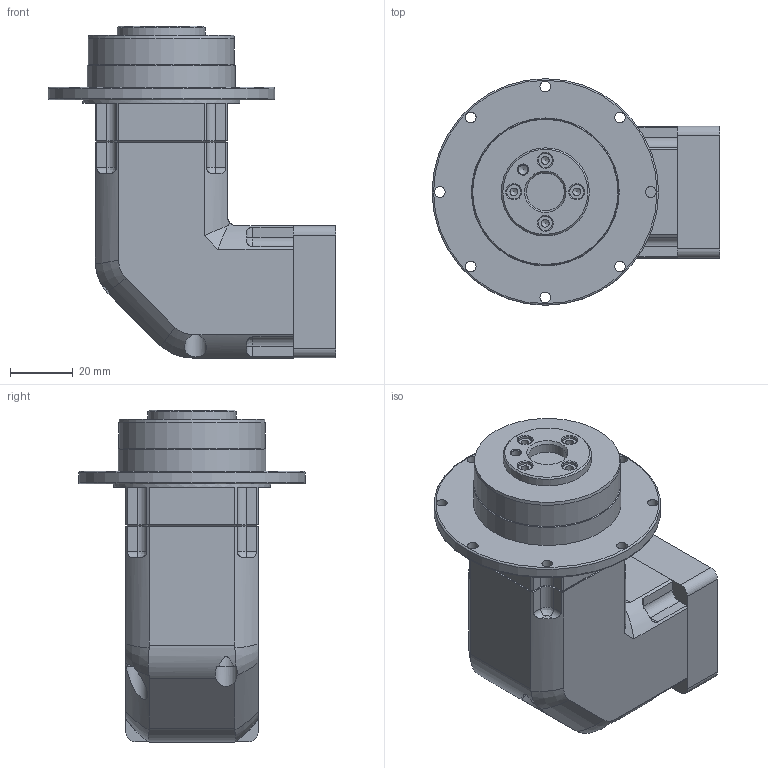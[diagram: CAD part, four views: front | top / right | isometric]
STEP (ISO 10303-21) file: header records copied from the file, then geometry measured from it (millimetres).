
FILE_DESCRIPTION((''),'2;1');
FILE_NAME('C:\Documents and Settings\nagyu\바탕 화면\유성감속기 3D\SPLF042\SPLF042S004~010FA.stp','2009-10-27T09:44:36',('nagyu'),(''),'Autodesk Inventor 2010','Autodesk Inventor 2010','');
FILE_SCHEMA(('AUTOMOTIVE_DESIGN { 1 0 10303 214 1 1 1 1 }'));
Length unit declared in the file: millimetre
Products named in the file (4): SPLF042 1단; SPIF042; 42각 INPUT ADAPTER FLANGE; 42각 GEARCASE
Assembly tree (3 placements, depth 2):
  SPLF042 1단
    SPIF042
    42각 INPUT ADAPTER FLANGE
    42각 GEARCASE
Bounding box: 91.5 x 72 x 105.5 mm (x, y, z)
Volume: 182130.3 mm3; surface area: 48082 mm2
Topology: 3 solids, 3 shells, 278 faces, 704 edges, 451 vertices
Faces by surface type: plane 102, cylinder 77, bspline 70, cone 27, torus 2
Full cylindrical faces by diameter (mm): 3.4 x8, 5.9 x2, 6 x2, 8 x1, 15 x1, 28 x1, 32 x2, 37 x2, 38 x1, 46.5 x1, 47 x1, 50 x1, 72 x1
Entity records: 9232 total; most frequent: CARTESIAN_POINT 3093, DIRECTION 1177, ORIENTED_EDGE 1156, EDGE_CURVE 578, AXIS2_PLACEMENT_3D 472, EDGE_LOOP 412, VERTEX_POINT 410, FACE_OUTER_BOUND 278
